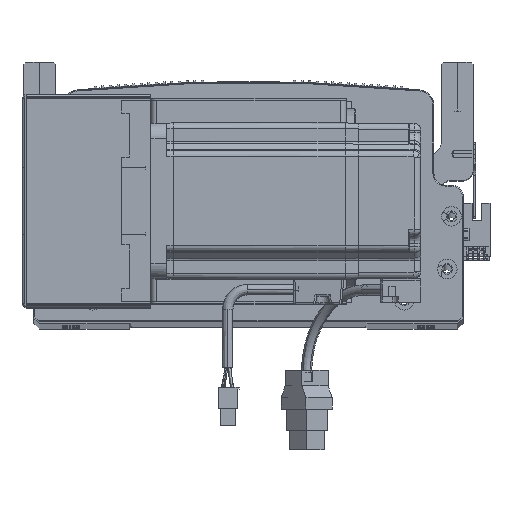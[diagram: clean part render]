
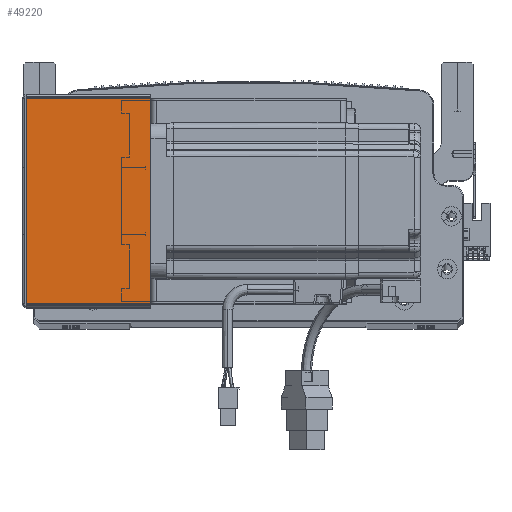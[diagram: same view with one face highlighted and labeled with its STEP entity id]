
A CAD part, top view. The second image highlights one B-rep face of the part: STEP entity #49220.
In plain terms, the highlighted planar face has unit normal (0, 0, 1) as drawn and (0, 0, -1) by its records, which use the part's own axes.
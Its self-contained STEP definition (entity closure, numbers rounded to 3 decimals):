
#3462 = EDGE_CURVE ( 'NONE', #73704, #62306, #20546, .T. ) ;
#4839 = ORIENTED_EDGE ( 'NONE', *, *, #3462, .F. ) ;
#5779 = CARTESIAN_POINT ( 'NONE',  ( 0., 105.293, -205.5 ) ) ;
#12327 = DIRECTION ( 'NONE',  ( 1., 0., 0. ) ) ;
#12681 = CARTESIAN_POINT ( 'NONE',  ( 0.737, 0.707, -205.5 ) ) ;
#13625 = FACE_OUTER_BOUND ( 'NONE', #59859, .T. ) ;
#14652 = LINE ( 'NONE', #44000, #66066 ) ;
#19601 = PLANE ( 'NONE',  #26693 ) ;
#20546 = LINE ( 'NONE', #23738, #25861 ) ;
#21640 = VECTOR ( 'NONE', #12327, 1000. ) ;
#22341 = EDGE_CURVE ( 'NONE', #42967, #73704, #14652, .T. ) ;
#23155 = ORIENTED_EDGE ( 'NONE', *, *, #22341, .F. ) ;
#23738 = CARTESIAN_POINT ( 'NONE',  ( 0., 0.707, -205.5 ) ) ;
#25861 = VECTOR ( 'NONE', #71579, 1000. ) ;
#26693 = AXIS2_PLACEMENT_3D ( 'NONE', #41700, #27652, #76675 ) ;
#27652 = DIRECTION ( 'NONE',  ( 0., 0., 1. ) ) ;
#28848 = EDGE_CURVE ( 'NONE', #42967, #68043, #52728, .T. ) ;
#29543 = DIRECTION ( 'NONE',  ( 0., -1., 0. ) ) ;
#29954 = DIRECTION ( 'NONE',  ( 0., -1., 0. ) ) ;
#38569 = CARTESIAN_POINT ( 'NONE',  ( 64.5, 0.707, -205.5 ) ) ;
#41700 = CARTESIAN_POINT ( 'NONE',  ( 0., 0., -205.5 ) ) ;
#42967 = VERTEX_POINT ( 'NONE', #64811 ) ;
#43309 = VECTOR ( 'NONE', #29543, 1000. ) ;
#44000 = CARTESIAN_POINT ( 'NONE',  ( 0.737, 0., -205.5 ) ) ;
#44408 = EDGE_CURVE ( 'NONE', #68043, #62306, #68943, .T. ) ;
#49220 = ADVANCED_FACE ( 'NONE', ( #13625 ), #19601, .F. ) ;
#52728 = LINE ( 'NONE', #5779, #21640 ) ;
#55024 = CARTESIAN_POINT ( 'NONE',  ( 64.5, 105.293, -205.5 ) ) ;
#59859 = EDGE_LOOP ( 'NONE', ( #23155, #84648, #69974, #4839 ) ) ;
#62306 = VERTEX_POINT ( 'NONE', #38569 ) ;
#64811 = CARTESIAN_POINT ( 'NONE',  ( 0.737, 105.293, -205.5 ) ) ;
#66066 = VECTOR ( 'NONE', #29954, 1000. ) ;
#68043 = VERTEX_POINT ( 'NONE', #55024 ) ;
#68943 = LINE ( 'NONE', #70525, #43309 ) ;
#69974 = ORIENTED_EDGE ( 'NONE', *, *, #44408, .T. ) ;
#70525 = CARTESIAN_POINT ( 'NONE',  ( 64.5, 0., -205.5 ) ) ;
#71579 = DIRECTION ( 'NONE',  ( 1., 0., 0. ) ) ;
#73704 = VERTEX_POINT ( 'NONE', #12681 ) ;
#76675 = DIRECTION ( 'NONE',  ( 1., 0., 0. ) ) ;
#84648 = ORIENTED_EDGE ( 'NONE', *, *, #28848, .T. ) ;
